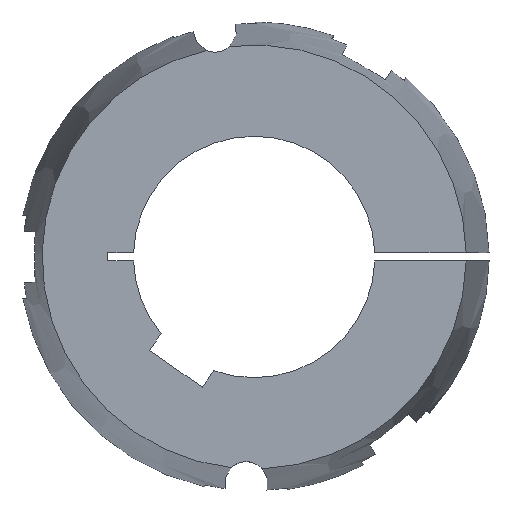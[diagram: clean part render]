
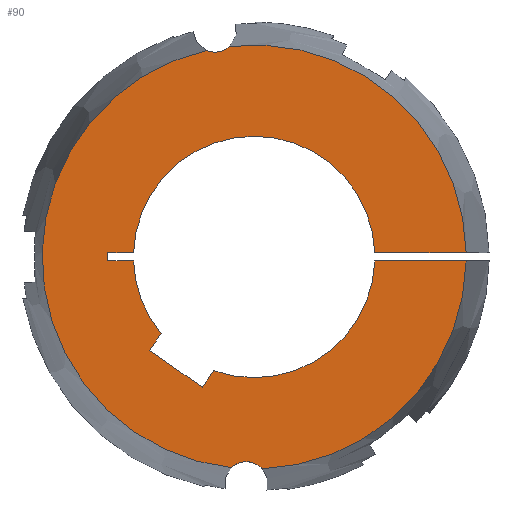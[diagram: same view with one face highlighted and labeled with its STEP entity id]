
A CAD part, left-side view. The second image highlights one B-rep face of the part: STEP entity #90.
In plain terms, the highlighted planar face has unit normal (-1, 0, 0).
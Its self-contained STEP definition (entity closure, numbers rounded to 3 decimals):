
#90 = ADVANCED_FACE( '', ( #140 ), #141, .F. );
#140 = FACE_OUTER_BOUND( '', #208, .T. );
#141 = PLANE( '', #209 );
#208 = EDGE_LOOP( '', ( #369, #370, #371, #372, #373, #374, #375, #376, #377, #378, #379, #380, #381, #382, #383, #384 ) );
#209 = AXIS2_PLACEMENT_3D( '', #385, #386, #387 );
#369 = ORIENTED_EDGE( '', *, *, #548, .F. );
#370 = ORIENTED_EDGE( '', *, *, #601, .F. );
#371 = ORIENTED_EDGE( '', *, *, #570, .T. );
#372 = ORIENTED_EDGE( '', *, *, #583, .T. );
#373 = ORIENTED_EDGE( '', *, *, #581, .T. );
#374 = ORIENTED_EDGE( '', *, *, #578, .T. );
#375 = ORIENTED_EDGE( '', *, *, #587, .T. );
#376 = ORIENTED_EDGE( '', *, *, #602, .T. );
#377 = ORIENTED_EDGE( '', *, *, #603, .T. );
#378 = ORIENTED_EDGE( '', *, *, #604, .T. );
#379 = ORIENTED_EDGE( '', *, *, #605, .T. );
#380 = ORIENTED_EDGE( '', *, *, #606, .T. );
#381 = ORIENTED_EDGE( '', *, *, #572, .T. );
#382 = ORIENTED_EDGE( '', *, *, #607, .F. );
#383 = ORIENTED_EDGE( '', *, *, #551, .F. );
#384 = ORIENTED_EDGE( '', *, *, #608, .F. );
#385 = CARTESIAN_POINT( '', ( -102., 0., 0. ) );
#386 = DIRECTION( '', ( 1., 0., 0. ) );
#387 = DIRECTION( '', ( 0., 1., 0. ) );
#548 = EDGE_CURVE( '', #649, #651, #652, .F. );
#551 = EDGE_CURVE( '', #655, #657, #658, .F. );
#570 = EDGE_CURVE( '', #693, #691, #694, .T. );
#572 = EDGE_CURVE( '', #696, #697, #698, .T. );
#578 = EDGE_CURVE( '', #709, #707, #710, .T. );
#581 = EDGE_CURVE( '', #714, #709, #715, .T. );
#583 = EDGE_CURVE( '', #691, #714, #717, .T. );
#587 = EDGE_CURVE( '', #707, #721, #723, .T. );
#601 = EDGE_CURVE( '', #693, #649, #745, .T. );
#602 = EDGE_CURVE( '', #721, #746, #747, .T. );
#603 = EDGE_CURVE( '', #746, #748, #749, .T. );
#604 = EDGE_CURVE( '', #748, #750, #751, .T. );
#605 = EDGE_CURVE( '', #750, #752, #753, .T. );
#606 = EDGE_CURVE( '', #752, #696, #754, .T. );
#607 = EDGE_CURVE( '', #657, #697, #755, .T. );
#608 = EDGE_CURVE( '', #651, #655, #756, .T. );
#649 = VERTEX_POINT( '', #815 );
#651 = VERTEX_POINT( '', #828 );
#652 = CIRCLE( '', #829, 6.75 );
#655 = VERTEX_POINT( '', #843 );
#657 = VERTEX_POINT( '', #856 );
#658 = CIRCLE( '', #857, 6.75 );
#691 = VERTEX_POINT( '', #924 );
#693 = VERTEX_POINT( '', #927 );
#694 = LINE( '', #928, #929 );
#696 = VERTEX_POINT( '', #937 );
#697 = VERTEX_POINT( '', #938 );
#698 = LINE( '', #939, #940 );
#707 = VERTEX_POINT( '', #958 );
#709 = VERTEX_POINT( '', #961 );
#710 = LINE( '', #962, #963 );
#714 = VERTEX_POINT( '', #969 );
#715 = LINE( '', #970, #971 );
#717 = CIRCLE( '', #974, 37.5 );
#721 = VERTEX_POINT( '', #979 );
#723 = LINE( '', #982, #983 );
#745 = CIRCLE( '', #1008, 65.867 );
#746 = VERTEX_POINT( '', #1009 );
#747 = CIRCLE( '', #1010, 37.5 );
#748 = VERTEX_POINT( '', #1011 );
#749 = LINE( '', #1012, #1013 );
#750 = VERTEX_POINT( '', #1014 );
#751 = LINE( '', #1015, #1016 );
#752 = VERTEX_POINT( '', #1017 );
#753 = LINE( '', #1018, #1019 );
#754 = CIRCLE( '', #1020, 37.5 );
#755 = CIRCLE( '', #1021, 65.867 );
#756 = CIRCLE( '', #1022, 65.867 );
#815 = CARTESIAN_POINT( '', ( -102., -2.538, -65.819 ) );
#828 = CARTESIAN_POINT( '', ( -102., 7.121, -65.481 ) );
#829 = AXIS2_PLACEMENT_3D( '', #1188, #1189, #1190 );
#843 = CARTESIAN_POINT( '', ( -102., 14.891, 64.162 ) );
#856 = CARTESIAN_POINT( '', ( -102., 7.611, 65.426 ) );
#857 = AXIS2_PLACEMENT_3D( '', #1191, #1192, #1193 );
#924 = CARTESIAN_POINT( '', ( -102., -37.479, -1.25 ) );
#927 = CARTESIAN_POINT( '', ( -102., -65.856, -1.25 ) );
#928 = CARTESIAN_POINT( '', ( -102., -73., -1.25 ) );
#929 = VECTOR( '', #1223, 1000. );
#937 = CARTESIAN_POINT( '', ( -102., -37.479, 1.25 ) );
#938 = CARTESIAN_POINT( '', ( -102., -65.856, 1.25 ) );
#939 = CARTESIAN_POINT( '', ( -102., 0., 1.25 ) );
#940 = VECTOR( '', #1224, 1000. );
#958 = CARTESIAN_POINT( '', ( -102., 32.511, -28.996 ) );
#961 = CARTESIAN_POINT( '', ( -102., 16.128, -40.468 ) );
#962 = CARTESIAN_POINT( '', ( -102., 16.128, -40.468 ) );
#963 = VECTOR( '', #1229, 1000. );
#969 = CARTESIAN_POINT( '', ( -102., 12.539, -35.342 ) );
#970 = CARTESIAN_POINT( '', ( -102., 12.539, -35.342 ) );
#971 = VECTOR( '', #1232, 1000. );
#974 = AXIS2_PLACEMENT_3D( '', #1234, #1235, #1236 );
#979 = CARTESIAN_POINT( '', ( -102., 28.922, -23.87 ) );
#982 = CARTESIAN_POINT( '', ( -102., 32.511, -28.996 ) );
#983 = VECTOR( '', #1242, 1000. );
#1008 = AXIS2_PLACEMENT_3D( '', #1276, #1277, #1278 );
#1009 = CARTESIAN_POINT( '', ( -102., 37.479, -1.25 ) );
#1010 = AXIS2_PLACEMENT_3D( '', #1279, #1280, #1281 );
#1011 = CARTESIAN_POINT( '', ( -102., 45.5, -1.25 ) );
#1012 = CARTESIAN_POINT( '', ( -102., 0., -1.25 ) );
#1013 = VECTOR( '', #1282, 1000. );
#1014 = CARTESIAN_POINT( '', ( -102., 45.5, 1.25 ) );
#1015 = CARTESIAN_POINT( '', ( -102., 45.5, -1.25 ) );
#1016 = VECTOR( '', #1283, 1000. );
#1017 = CARTESIAN_POINT( '', ( -102., 37.479, 1.25 ) );
#1018 = CARTESIAN_POINT( '', ( -102., 45.5, 1.25 ) );
#1019 = VECTOR( '', #1284, 1000. );
#1020 = AXIS2_PLACEMENT_3D( '', #1285, #1286, #1287 );
#1021 = AXIS2_PLACEMENT_3D( '', #1288, #1289, #1290 );
#1022 = AXIS2_PLACEMENT_3D( '', #1291, #1292, #1293 );
#1188 = CARTESIAN_POINT( '', ( -102., 2.456, -70.36 ) );
#1189 = DIRECTION( '', ( 1., 0., 0. ) );
#1190 = DIRECTION( '', ( 0., 1., 0. ) );
#1191 = CARTESIAN_POINT( '', ( -102., 12.218, 70.36 ) );
#1192 = DIRECTION( '', ( 1., 0., 0. ) );
#1193 = DIRECTION( '', ( 0., 1., 0. ) );
#1223 = DIRECTION( '', ( 0., 1., 0. ) );
#1224 = DIRECTION( '', ( 0., -1., 0. ) );
#1229 = DIRECTION( '', ( 0., 0.819, 0.574 ) );
#1232 = DIRECTION( '', ( 0., 0.574, -0.819 ) );
#1234 = CARTESIAN_POINT( '', ( -102., 0., 0. ) );
#1235 = DIRECTION( '', ( 1., 0., 0. ) );
#1236 = DIRECTION( '', ( 0., 0., -1. ) );
#1242 = DIRECTION( '', ( 0., -0.574, 0.819 ) );
#1276 = CARTESIAN_POINT( '', ( -102., 0., 0. ) );
#1277 = DIRECTION( '', ( 1., 0., 0. ) );
#1278 = DIRECTION( '', ( 0., 1., 0. ) );
#1279 = CARTESIAN_POINT( '', ( -102., 0., 0. ) );
#1280 = DIRECTION( '', ( 1., 0., 0. ) );
#1281 = DIRECTION( '', ( 0., 0., -1. ) );
#1282 = DIRECTION( '', ( 0., 1., 0. ) );
#1283 = DIRECTION( '', ( 0., 0., 1. ) );
#1284 = DIRECTION( '', ( 0., -1., 0. ) );
#1285 = CARTESIAN_POINT( '', ( -102., 0., 0. ) );
#1286 = DIRECTION( '', ( 1., 0., 0. ) );
#1287 = DIRECTION( '', ( 0., 0., -1. ) );
#1288 = CARTESIAN_POINT( '', ( -102., 0., 0. ) );
#1289 = DIRECTION( '', ( 1., 0., 0. ) );
#1290 = DIRECTION( '', ( 0., 1., 0. ) );
#1291 = CARTESIAN_POINT( '', ( -102., 0., 0. ) );
#1292 = DIRECTION( '', ( 1., 0., 0. ) );
#1293 = DIRECTION( '', ( 0., 1., 0. ) );
